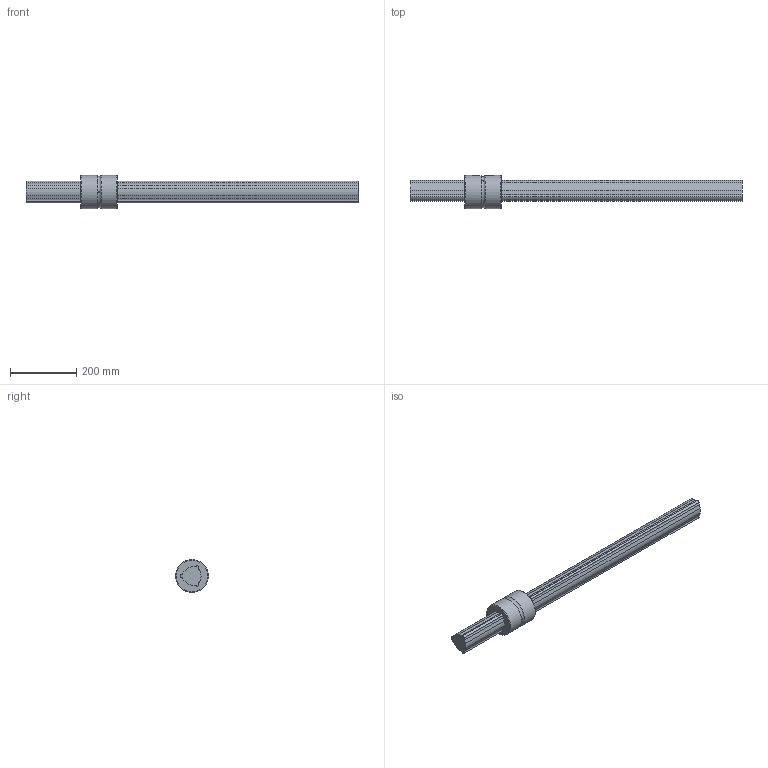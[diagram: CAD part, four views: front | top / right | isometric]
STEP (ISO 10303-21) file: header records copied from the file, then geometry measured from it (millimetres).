
FILE_DESCRIPTION(/* description */ ('STEP AP214'),/* implementation_level */ '2;1');
FILE_NAME(/* name */ 'LBS70+1000L(1101650)',/* time_stamp */ '2024-09-04T12:50:41+02:00',/* author */ ('License CC BY-ND 4.0'),/* organization */ ('CADENAS'),/* preprocessor_version */ 'ST-DEVELOPER v19.3',/* originating_system */ 'PARTsolutions',/* authorisation */ ' ');
FILE_SCHEMA (('AUTOMOTIVE_DESIGN {1 0 10303 214 3 1 1}'));
Length unit declared in the file: millimetre
Products named in the file (3): LBS70+1000L(1101650); LBS70 Nut; LBS7011000 Spline Shaft
Assembly tree (2 placements, depth 2):
  LBS70+1000L(1101650)
    LBS70 Nut
    LBS7011000 Spline Shaft
Bounding box: 1000 x 100 x 100 mm (x, y, z)
Volume: 3193761.8 mm3; surface area: 277608.3 mm2
Topology: 3 solids, 3 shells, 57 faces, 148 edges, 99 vertices
Faces by surface type: cylinder 31, plane 22, torus 4
Full cylindrical faces by diameter (mm): 4 x3, 100 x2
Entity records: 1806 total; most frequent: CARTESIAN_POINT 351, DIRECTION 306, ORIENTED_EDGE 272, EDGE_CURVE 136, AXIS2_PLACEMENT_3D 118, VERTEX_POINT 94, LINE 70, VECTOR 70
